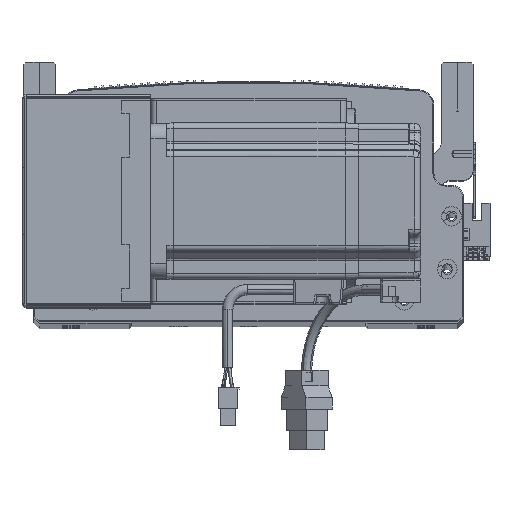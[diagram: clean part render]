
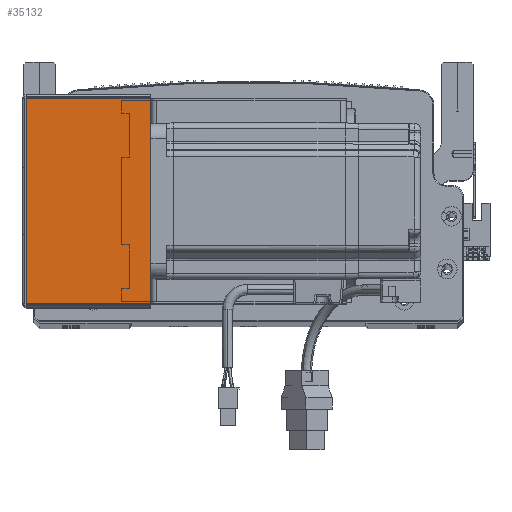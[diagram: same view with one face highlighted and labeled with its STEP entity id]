
A CAD part, top view. The second image highlights one B-rep face of the part: STEP entity #35132.
In plain terms, the highlighted planar face has unit normal (0, 0, 1) as drawn and (0, 0, -1) by its records, which use the part's own axes.
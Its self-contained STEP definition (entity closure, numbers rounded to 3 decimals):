
#584 = ORIENTED_EDGE ( 'NONE', *, *, #11708, .F. ) ;
#1708 = PLANE ( 'NONE',  #85696 ) ;
#2234 = VECTOR ( 'NONE', #85023, 1000. ) ;
#5143 = ORIENTED_EDGE ( 'NONE', *, *, #40205, .F. ) ;
#5330 = DIRECTION ( 'NONE',  ( 0., 0., 1. ) ) ;
#6989 = CARTESIAN_POINT ( 'NONE',  ( 64.5, 0.707, -205.5 ) ) ;
#7784 = CARTESIAN_POINT ( 'NONE',  ( 0.737, 0.707, -205.5 ) ) ;
#10972 = CARTESIAN_POINT ( 'NONE',  ( 0., 0.707, -205.5 ) ) ;
#11511 = CARTESIAN_POINT ( 'NONE',  ( 64.5, 105.293, -205.5 ) ) ;
#11708 = EDGE_CURVE ( 'NONE', #79990, #32717, #14068, .T. ) ;
#14068 = LINE ( 'NONE', #10972, #16192 ) ;
#16192 = VECTOR ( 'NONE', #73974, 1000. ) ;
#20921 = VECTOR ( 'NONE', #53202, 1000. ) ;
#21131 = CARTESIAN_POINT ( 'NONE',  ( 0.737, 105.293, -205.5 ) ) ;
#29982 = CARTESIAN_POINT ( 'NONE',  ( 0., 0., -205.5 ) ) ;
#31630 = EDGE_CURVE ( 'NONE', #74660, #82554, #39017, .T. ) ;
#32717 = VERTEX_POINT ( 'NONE', #6989 ) ;
#35132 = ADVANCED_FACE ( 'NONE', ( #58420 ), #1708, .F. ) ;
#39017 = LINE ( 'NONE', #74592, #20921 ) ;
#39221 = DIRECTION ( 'NONE',  ( 1., 0., 0. ) ) ;
#40205 = EDGE_CURVE ( 'NONE', #74660, #79990, #60771, .T. ) ;
#44593 = ORIENTED_EDGE ( 'NONE', *, *, #77834, .T. ) ;
#44874 = CARTESIAN_POINT ( 'NONE',  ( 0.737, 0., -205.5 ) ) ;
#50922 = VECTOR ( 'NONE', #67073, 1000. ) ;
#53202 = DIRECTION ( 'NONE',  ( 1., 0., 0. ) ) ;
#58420 = FACE_OUTER_BOUND ( 'NONE', #88133, .T. ) ;
#60771 = LINE ( 'NONE', #44874, #2234 ) ;
#67073 = DIRECTION ( 'NONE',  ( 0., -1., 0. ) ) ;
#73974 = DIRECTION ( 'NONE',  ( 1., 0., 0. ) ) ;
#74310 = LINE ( 'NONE', #80175, #50922 ) ;
#74592 = CARTESIAN_POINT ( 'NONE',  ( 0., 105.293, -205.5 ) ) ;
#74660 = VERTEX_POINT ( 'NONE', #21131 ) ;
#77834 = EDGE_CURVE ( 'NONE', #82554, #32717, #74310, .T. ) ;
#79990 = VERTEX_POINT ( 'NONE', #7784 ) ;
#80175 = CARTESIAN_POINT ( 'NONE',  ( 64.5, 0., -205.5 ) ) ;
#82554 = VERTEX_POINT ( 'NONE', #11511 ) ;
#85023 = DIRECTION ( 'NONE',  ( 0., -1., 0. ) ) ;
#85696 = AXIS2_PLACEMENT_3D ( 'NONE', #29982, #5330, #39221 ) ;
#87268 = ORIENTED_EDGE ( 'NONE', *, *, #31630, .T. ) ;
#88133 = EDGE_LOOP ( 'NONE', ( #5143, #87268, #44593, #584 ) ) ;
